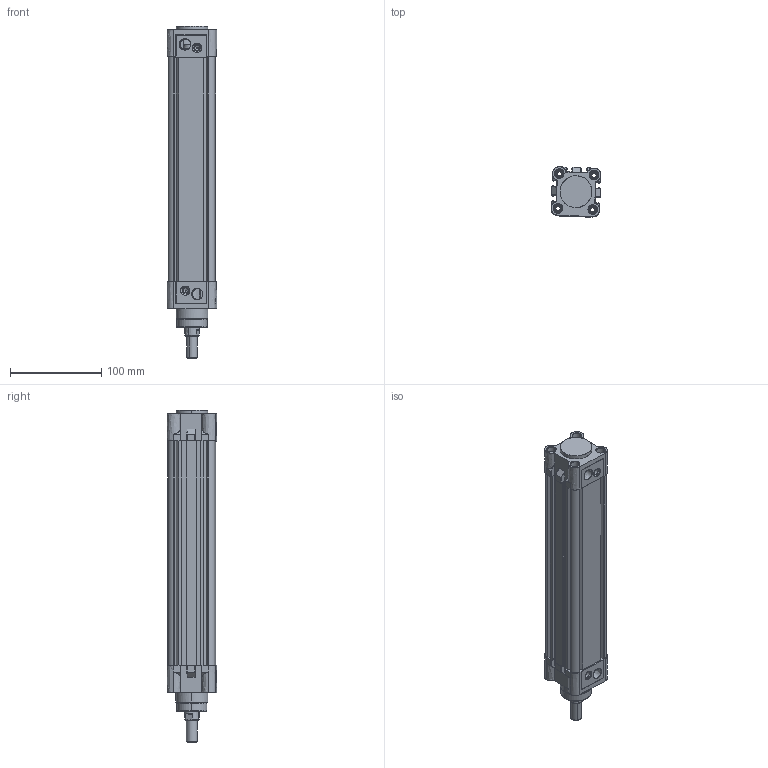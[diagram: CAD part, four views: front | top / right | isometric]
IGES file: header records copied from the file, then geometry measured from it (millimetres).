
Start section: SolidWorks IGES file using analytic representation for surfaces
Global section: file name: D:\ARICA 3D 禽Z軲LER\3D IGES\KDNC\KDNC40\KDNC40X200CYLINDER.IGS,1; native system: 5HSolidWorks 2013; preprocessor: SolidWorks 2013; author: user; date: 150303.144040; units: millimetre
Bounding box: 54.35 x 54.55 x 363 mm (x, y, z)
Surface area: 190391.1 mm2 (no closed solid volume)
Topology: 0 solids, 0 shells, 668 faces, 10289 edges, 10280 vertices
Faces by surface type: revolution 365, bspline 303
